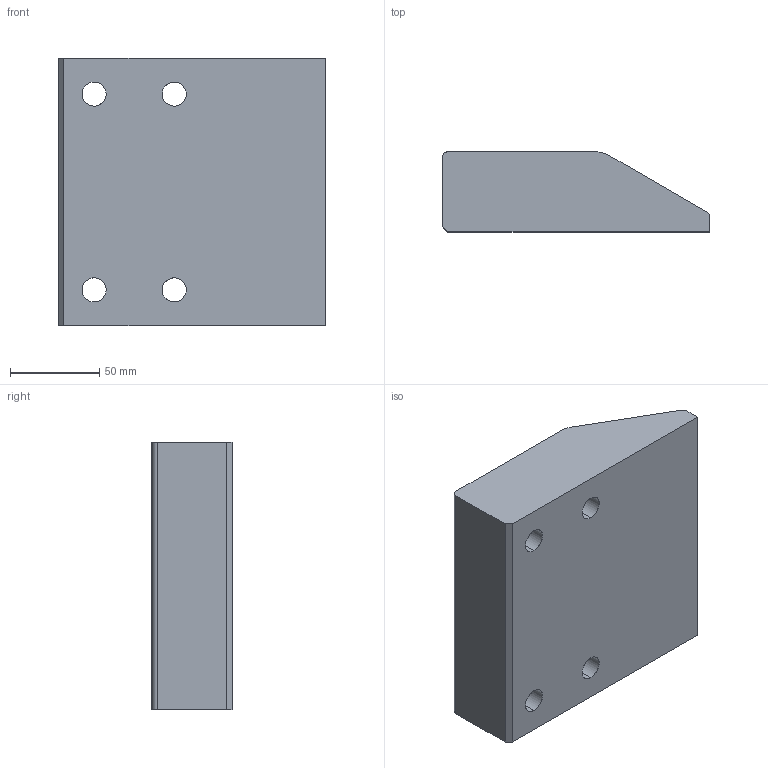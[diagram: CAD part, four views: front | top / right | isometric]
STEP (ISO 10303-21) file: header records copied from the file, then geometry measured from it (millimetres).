
FILE_DESCRIPTION(('CATIA V5 STEP Exchange'),'2;1');
FILE_NAME('C:\Users\Utente\Desktop\3D files A934\A934-15015045.stp','2020-04-17T08:27:02+00:00',('none'),('none'),'CATIA Version 5 Release 20 GA (IN-10)','CATIA V5 STEP AP203','none');
FILE_SCHEMA(('CONFIG_CONTROL_DESIGN'));
Length unit declared in the file: millimetre
Products named in the file (1): Noname
Bounding box: 150 x 45 x 150 mm (x, y, z)
Surface area: 74200.1 mm2 (no closed solid volume)
Topology: 0 solids, 27 shells, 39 faces, 158 edges, 134 vertices
Faces by surface type: cylinder 19, extrusion 12, revolution 8
Entity records: 2132 total; most frequent: CARTESIAN_POINT 870, ORIENTED_EDGE 182, DIRECTION 174, EDGE_CURVE 158, VERTEX_POINT 134, AXIS2_PLACEMENT_3D 82, VECTOR 66, B_SPLINE_CURVE_WITH_KNOTS 62
